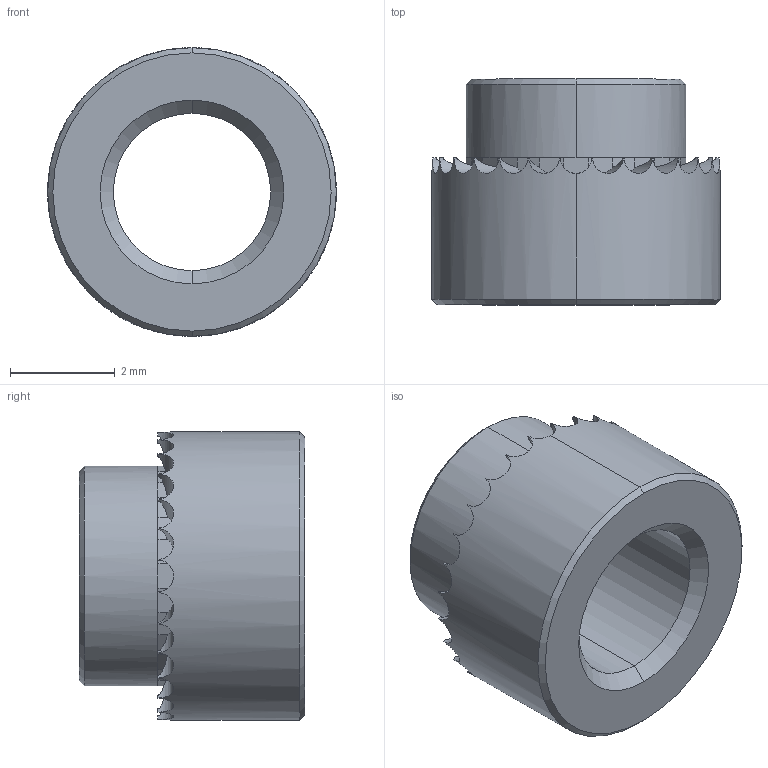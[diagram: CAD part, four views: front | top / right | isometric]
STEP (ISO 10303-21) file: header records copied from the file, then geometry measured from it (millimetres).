
FILE_DESCRIPTION (( 'STEP AP203' ), '1' );
FILE_NAME ('P0829.030-20G-ZP.step', '2019-03-21T22:12:52', ( '' ), ( '' ), 'SwSTEP 2.0', 'SolidWorks 2017', '' );
FILE_SCHEMA (( 'CONFIG_CONTROL_DESIGN' ));
Length unit declared in the file: millimetre
Products named in the file (1): P0829.030-20G-ZP
Bounding box: 5.5 x 4.3 x 5.5 mm (x, y, z)
Volume: 53.6 mm3; surface area: 140.1 mm2
Topology: 1 solids, 1 shells, 128 faces, 312 edges, 186 vertices
Faces by surface type: plane 86, cylinder 34, cone 8
Entity records: 3963 total; most frequent: CARTESIAN_POINT 965, ORIENTED_EDGE 624, DIRECTION 612, EDGE_CURVE 312, AXIS2_PLACEMENT_3D 229, VERTEX_POINT 186, LINE 154, VECTOR 154
